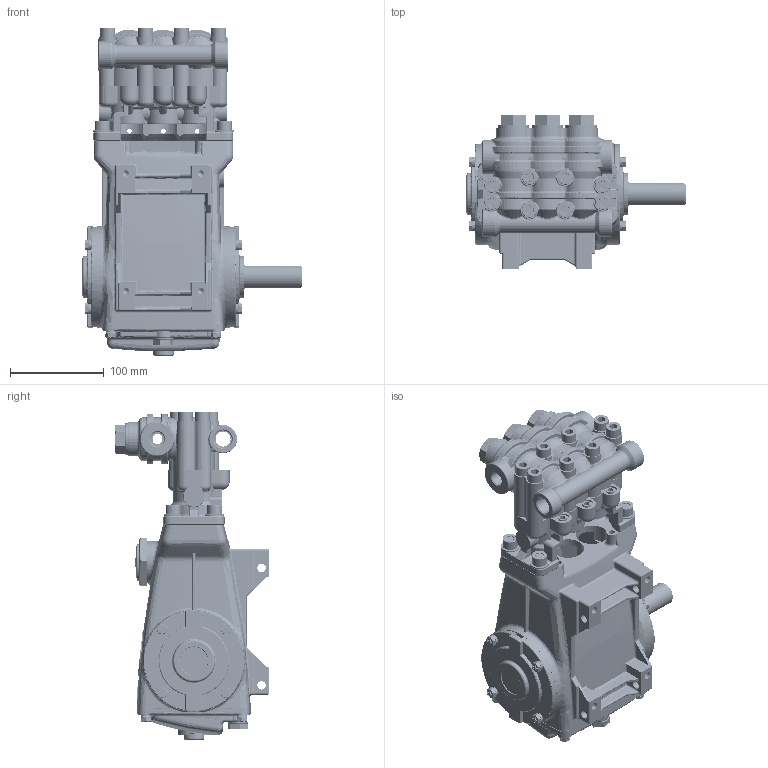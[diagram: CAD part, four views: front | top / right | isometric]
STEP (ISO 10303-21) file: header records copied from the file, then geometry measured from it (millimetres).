
FILE_DESCRIPTION (( 'STEP AP214' ), '1' );
FILE_NAME ('700.STEP', '2013-01-15T13:07:16', ( '' ), ( '' ), 'SwSTEP 2.0', 'SolidWorks 2012', '' );
FILE_SCHEMA (( 'AUTOMOTIVE_DESIGN' ));
Length unit declared in the file: millimetre
Products named in the file (1): 700
Bounding box: 233 x 164 x 349.3 mm (x, y, z)
Volume: 2001331.5 mm3; surface area: 504576 mm2
Topology: 1 solids, 49 shells, 5071 faces, 12543 edges, 7743 vertices
Faces by surface type: plane 1732, cylinder 1367, bspline 872, torus 666, cone 363, sphere 71
Entity records: 227484 total; most frequent: CARTESIAN_POINT 75648, ORIENTED_EDGE 24834, DIRECTION 22620, EDGE_CURVE 12417, AXIS2_PLACEMENT_3D 8629, VERTEX_POINT 7731, EDGE_LOOP 5464, LINE 5362
